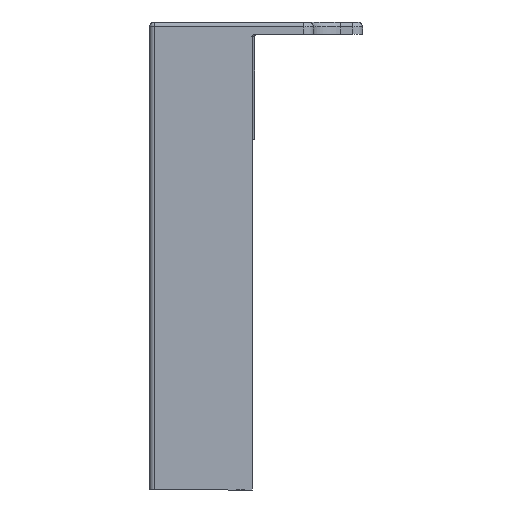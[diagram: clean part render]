
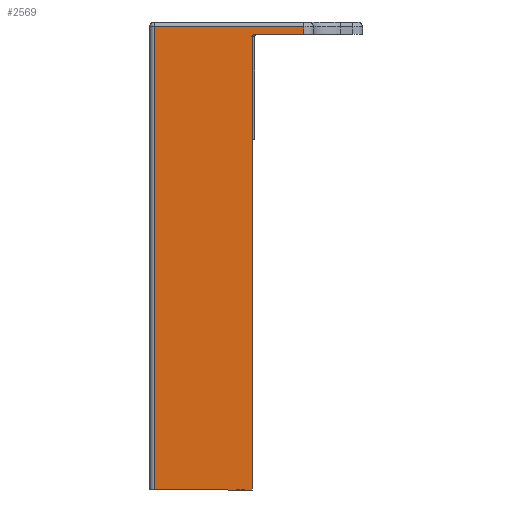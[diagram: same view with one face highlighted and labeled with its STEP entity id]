
A CAD part, front view. The second image highlights one B-rep face of the part: STEP entity #2569.
In plain terms, the highlighted planar face has unit normal (0, -1, 0).
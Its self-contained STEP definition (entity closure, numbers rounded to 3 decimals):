
#99=B_SPLINE_CURVE_WITH_KNOTS('',3,(#55754,#55755,#55756,#55757,#55758,
#55759,#55760,#55761,#55762,#55763,#55764,#55765,#55766,#55767,#55768,#55769),
 .UNSPECIFIED.,.F.,.F.,(4,3,3,3,3,4),(0.,0.213,0.425,
0.639,0.854,1.),.UNSPECIFIED.);
#941=FACE_OUTER_BOUND('',#6284,.T.);
#2569=ADVANCED_FACE('',(#941),#4168,.T.);
#4168=PLANE('',#37192);
#6284=EDGE_LOOP('',(#12669,#12670,#12671,#12672,#12673,#12674,#12675));
#12669=ORIENTED_EDGE('',*,*,#25801,.F.);
#12670=ORIENTED_EDGE('',*,*,#26235,.T.);
#12671=ORIENTED_EDGE('',*,*,#26236,.T.);
#12672=ORIENTED_EDGE('',*,*,#26237,.T.);
#12673=ORIENTED_EDGE('',*,*,#23504,.T.);
#12674=ORIENTED_EDGE('',*,*,#26238,.F.);
#12675=ORIENTED_EDGE('',*,*,#26239,.T.);
#20076=VERTEX_POINT('',#49939);
#20077=VERTEX_POINT('',#49941);
#22083=VERTEX_POINT('',#54800);
#22120=VERTEX_POINT('',#54883);
#22541=VERTEX_POINT('',#55748);
#22542=VERTEX_POINT('',#55750);
#22543=VERTEX_POINT('',#55753);
#23504=EDGE_CURVE('',#20077,#20076,#28323,.T.);
#25801=EDGE_CURVE('',#22120,#22083,#30109,.T.);
#26235=EDGE_CURVE('',#22120,#22541,#30325,.T.);
#26236=EDGE_CURVE('',#22541,#22542,#30326,.T.);
#26237=EDGE_CURVE('',#22542,#20077,#30327,.T.);
#26238=EDGE_CURVE('',#22543,#20076,#30328,.T.);
#26239=EDGE_CURVE('',#22543,#22083,#99,.T.);
#28323=LINE('',#49940,#32267);
#30109=LINE('',#54884,#34053);
#30325=LINE('',#55747,#34269);
#30326=LINE('',#55749,#34270);
#30327=LINE('',#55751,#34271);
#30328=LINE('',#55752,#34272);
#32267=VECTOR('',#39847,1.);
#34053=VECTOR('',#43249,1.);
#34269=VECTOR('',#43919,1.);
#34270=VECTOR('',#43920,1.);
#34271=VECTOR('',#43921,1.);
#34272=VECTOR('',#43922,1.);
#37192=AXIS2_PLACEMENT_3D('',#55770,#43923,#43924);
#39847=DIRECTION('',(1.,0.,0.));
#43249=DIRECTION('',(-1.,0.,0.));
#43919=DIRECTION('',(0.,0.,1.));
#43920=DIRECTION('',(-1.,0.,0.));
#43921=DIRECTION('',(0.,0.,-1.));
#43922=DIRECTION('',(0.,0.,-1.));
#43923=DIRECTION('',(0.,-1.,0.));
#43924=DIRECTION('',(0.,0.,-1.));
#49939=CARTESIAN_POINT('',(21.,0.,0.));
#49940=CARTESIAN_POINT('',(21.75,0.,0.));
#49941=CARTESIAN_POINT('',(1.,0.,0.));
#54800=CARTESIAN_POINT('',(21.504,0.,93.));
#54883=CARTESIAN_POINT('',(31.5,0.,93.));
#54884=CARTESIAN_POINT('',(43.5,0.,93.));
#55747=CARTESIAN_POINT('',(31.5,0.,0.));
#55748=CARTESIAN_POINT('',(31.5,0.,94.5));
#55749=CARTESIAN_POINT('',(21.75,0.,94.5));
#55750=CARTESIAN_POINT('',(1.,0.,94.5));
#55751=CARTESIAN_POINT('',(1.,0.,0.));
#55752=CARTESIAN_POINT('',(21.,0.,93.));
#55753=CARTESIAN_POINT('',(21.,0.,92.5));
#55754=CARTESIAN_POINT('',(21.,0.,92.5));
#55755=CARTESIAN_POINT('',(21.,0.,92.556));
#55756=CARTESIAN_POINT('',(21.01,0.,92.612));
#55757=CARTESIAN_POINT('',(21.028,0.,92.664));
#55758=CARTESIAN_POINT('',(21.046,0.,92.717));
#55759=CARTESIAN_POINT('',(21.074,0.,92.767));
#55760=CARTESIAN_POINT('',(21.109,0.,92.81));
#55761=CARTESIAN_POINT('',(21.144,0.,92.854));
#55762=CARTESIAN_POINT('',(21.186,0.,92.892));
#55763=CARTESIAN_POINT('',(21.234,0.,92.922));
#55764=CARTESIAN_POINT('',(21.281,0.,92.952));
#55765=CARTESIAN_POINT('',(21.335,0.,92.974));
#55766=CARTESIAN_POINT('',(21.39,0.,92.987));
#55767=CARTESIAN_POINT('',(21.427,0.,92.996));
#55768=CARTESIAN_POINT('',(21.466,0.,93.));
#55769=CARTESIAN_POINT('',(21.504,0.,93.));
#55770=CARTESIAN_POINT('',(21.75,0.,0.));
